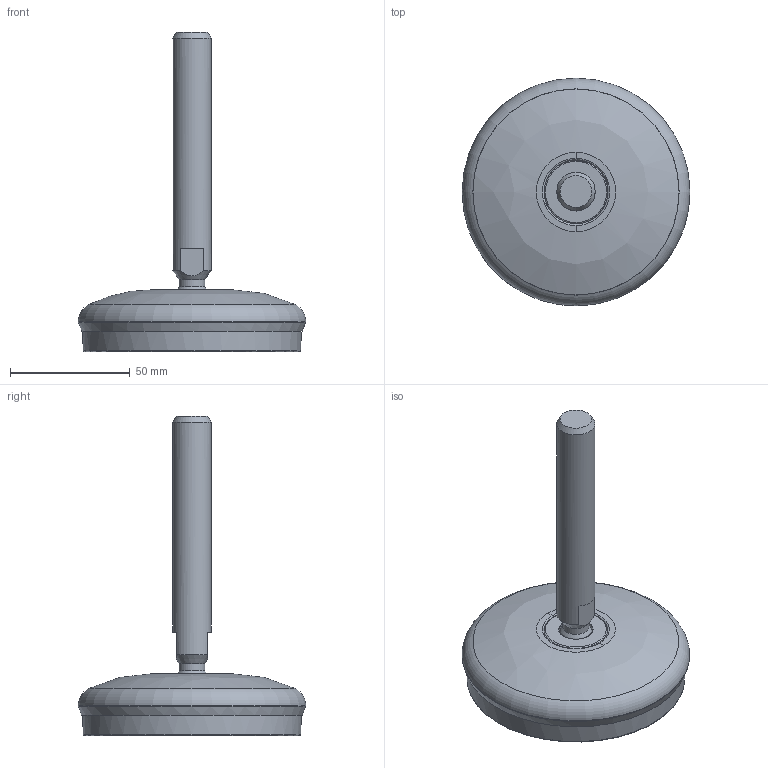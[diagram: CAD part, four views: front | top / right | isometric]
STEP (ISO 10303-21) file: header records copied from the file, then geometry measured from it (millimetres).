
FILE_DESCRIPTION(/* description */ ('STEP AP214'),/* implementation_level */ '2;1');
FILE_NAME(/* name */ 'C:\Users\Stefan.Nesic\Desktop\01010STEP\000Verifica\CORRETTI\P095IM16X133.stp',/* time_stamp */ '2022-07-12T11:12:46+02:00',/* author */ ('stefan.nesic'),/* organization */ (' '),/* preprocessor_version */ 'ST-DEVELOPER v18.1',/* originating_system */ 'Autodesk Inventor 2021',/* authorisation */ ' ');
FILE_SCHEMA (('CONFIG_CONTROL_DESIGN'));
Length unit declared in the file: millimetre
Products named in the file (4): P095IM16X133; Component1; Solido; Solido1
Assembly tree (3 placements, depth 2):
  P095IM16X133
    Component1
    Solido
    Solido1
Bounding box: 94.99 x 94.99 x 133.24 mm (x, y, z)
Volume: 113946.7 mm3; surface area: 43028.9 mm2
Topology: 3 solids, 3 shells, 64 faces, 142 edges, 93 vertices
Faces by surface type: plane 19, cone 17, torus 10, bspline 8, cylinder 7, sphere 3
Full cylindrical faces by diameter (mm): 10.826 x1, 13.9 x1, 16 x1, 26.5 x1, 26.512 x1, 27.512 x1, 28.5 x1
Entity records: 3038 total; most frequent: CARTESIAN_POINT 1409, DIRECTION 352, ORIENTED_EDGE 280, AXIS2_PLACEMENT_3D 159, EDGE_CURVE 140, CIRCLE 96, VERTEX_POINT 93, EDGE_LOOP 77
